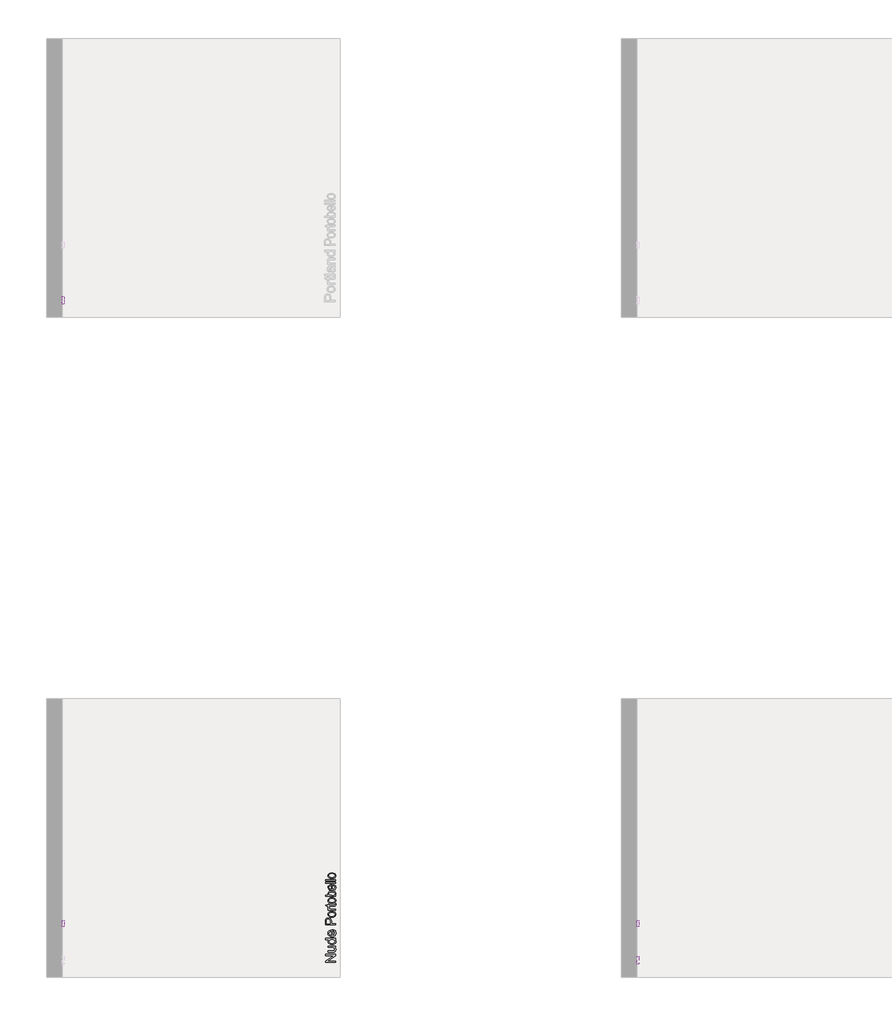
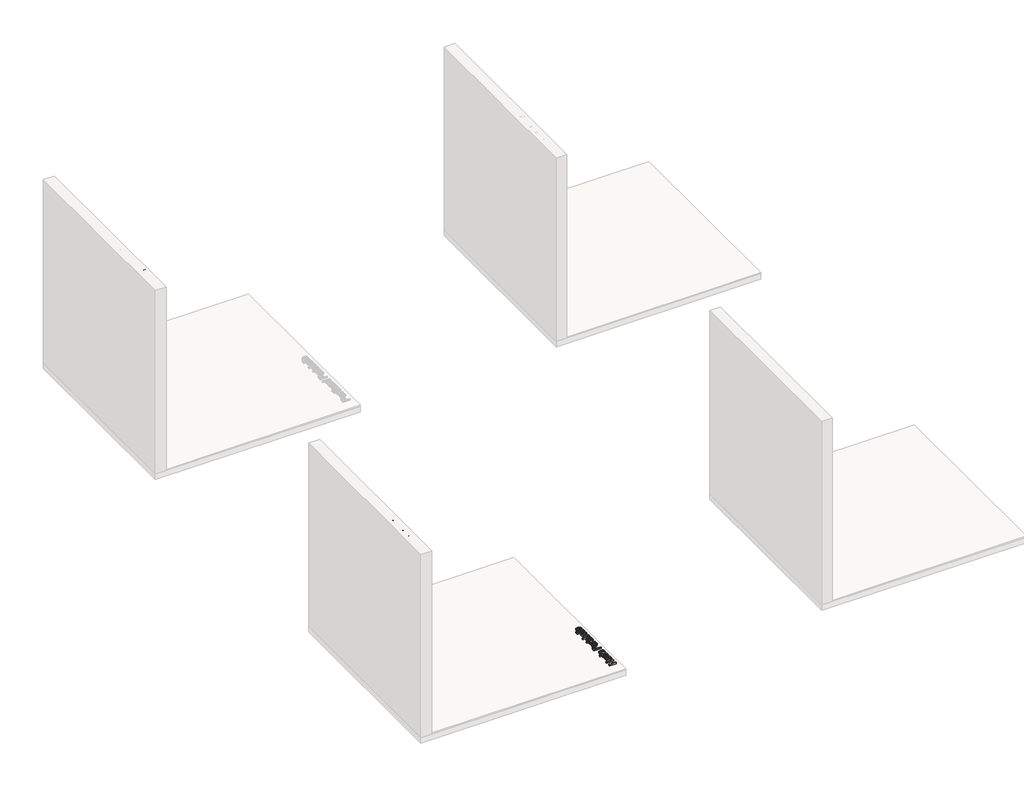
# One storey, part 8 of 14: 6 proxies.
"""IFC4 building model written with IfcOpenShell, lengths in millimetres."""

from ifc_helpers import new_model, si_unit, frame, origin, place, context, project, spatial, polyline, outline, extrude, element, save

model = new_model("IFC4")

# Units and contexts
model_context = context("Model", 3, world=origin())
ifc_project = project(units=[si_unit("LENGTHUNIT", "METRE", prefix="MILLI")], contexts=[model_context])

# Site, building, storey
site = spatial("IfcSite", under=ifc_project)
building = spatial("IfcBuilding", under=site)
storey = spatial("IfcBuildingStorey", under=building, Name="PORTOBELLO - SHOWROOM", Elevation=0.0)

# Proxies
placement = place(None, origin())
element("IfcBuildingElementProxy", 1, Name="10mm Arial", ObjectType="10mm Arial", at=placement, inside=storey, context=model_context, shape_type="SweptSolid", body=[
    extrude(outline(polyline([(186770.0643297, 3719.1344918), (186669.6080195, 3719.1344918), (186669.6080195, 3732.5744474), (186749.1931578, 3785.0589453), (186669.6080195, 3785.0589453), (186669.6080195, 3797.6159841), (186770.0643297, 3797.6159841), (186770.0643297, 3784.1760285), (186690.4546659, 3731.6915306), (186770.0643297, 3731.6915306), (186770.0643297, 3719.1344918)])), frame((0.0, 0.0, 17.0), z_axis=(0.0, 0.0, 1.0), x_axis=(1.0, 0.0, 0.0)), (0.0, 0.0, 1.0), 20.0),
    extrude(outline(polyline([(186770.0643297, 3865.1100675), (186757.3846636, 3865.1100675), (186768.0716355, 3855.2753555), (186771.6339595, 3842.4485366), (186769.132362, 3830.6395245), (186762.8538426, 3822.4970697), (186753.6077418, 3818.7569361), (186741.9336198, 3818.0211721), (186696.2917269, 3818.0211721), (186696.2917269, 3830.5782109), (186736.0229824, 3830.5782109), (186748.8252758, 3831.3385003), (186756.3423313, 3836.3049073), (186759.0769208, 3845.6613727), (186756.2810176, 3856.1460095), (186748.6658603, 3863.0744538), (186734.6740818, 3865.1100675), (186696.2917269, 3865.1100675), (186696.2917269, 3877.6671063), (186770.0643297, 3877.6671063), (186770.0643297, 3865.1100675)])), frame((0.0, 0.0, 17.0), z_axis=(0.0, 0.0, 1.0), x_axis=(1.0, 0.0, 0.0)), (0.0, 0.0, 1.0), 20.0),
    extrude(outline(polyline([(186770.0643297, 3940.4523001), (186758.2185294, 3940.4523001), (186768.280102, 3932.1442984), (186771.6339595, 3920.6602488), (186766.7779172, 3905.1111031), (186753.227597, 3894.1236942), (186733.2516047, 3890.224145), (186713.2633496, 3893.8171258), (186699.504563, 3904.5838056), (186694.7220971, 3920.6111978), (186698.1433996, 3932.1872179), (186707.0338812, 3940.4523001), (186669.6080195, 3940.4523001), (186669.6080195, 3953.0093389), (186770.0643297, 3953.0093389), (186770.0643297, 3940.4523001)]), holes=[polyline([(186733.2025538, 3902.7811838), (186744.5609104, 3904.1975295), (186752.6389859, 3908.4465665), (186757.467437, 3914.6208527), (186759.0769208, 3921.8129457), (186757.5410134, 3929.001973), (186752.9332914, 3935.0199093), (186745.1679157, 3939.0942024), (186734.159047, 3940.4523001), (186722.1231744, 3939.0696769), (186713.7783844, 3934.9218074), (186708.903948, 3928.750587), (186707.2791358, 3921.2979109), (186708.8395686, 3914.0322415), (186713.520867, 3908.0786845), (186721.5621543, 3904.105559), (186733.2025538, 3902.7811838)])]), frame((0.0, 0.0, 17.0), z_axis=(0.0, 0.0, 1.0), x_axis=(1.0, 0.0, 0.0)), (0.0, 0.0, 1.0), 20.0),
    extrude(outline(polyline([(186748.0895118, 4023.4955291), (186749.6591417, 4035.8073132), (186758.9358993, 4031.3712695), (186765.8704749, 4024.2926068), (186770.1930884, 4014.7307406), (186771.6339595, 4002.8450865), (186769.1476904, 3988.1114126), (186761.6888829, 3976.7745158), (186749.7419151, 3969.5456345), (186733.791165, 3967.1360075), (186717.3039202, 3969.57016), (186704.973742, 3976.8726176), (186697.2850083, 3988.0562303), (186694.7220971, 4002.133848), (186697.2788769, 4015.7730729), (186704.9492165, 4026.671577), (186717.2548693, 4033.8176848), (186733.7175886, 4036.1997207), (186737.1021029, 4036.1261443), (186737.1021029, 3979.6930462), (186746.5014879, 3981.8666157), (186753.411538, 3986.9157961), (186757.6605751, 3994.2029253), (186759.0769208, 4003.0903411), (186756.4526959, 4015.4021252), (186748.0895118, 4023.4955291)]), holes=[polyline([(186724.5450642, 3979.6930462), (186724.5450642, 4023.6426819), (186713.1652478, 4018.6149613), (186708.7506638, 4011.2941096), (186707.2791358, 4002.084797), (186711.9757627, 3986.6214905), (186717.4664014, 3981.7562511), (186724.5450642, 3979.6930462)])]), frame((0.0, 0.0, 17.0), z_axis=(0.0, 0.0, 1.0), x_axis=(1.0, 0.0, 0.0)), (0.0, 0.0, 1.0), 20.0),
])
element("IfcBuildingElementProxy", 2, Name="10mm Arial", ObjectType="10mm Arial", at=placement, inside=storey, context=model_context, shape_type="SweptSolid", body=[
    extrude(outline(polyline([(3702.0552811, 2558.2261649), (3702.0552811, 2658.6824751), (3715.4952367, 2658.6824751), (3767.9797347, 2579.0973368), (3767.9797347, 2658.6824751), (3780.5367734, 2658.6824751), (3780.5367734, 2558.2261649), (3767.0968179, 2558.2261649), (3714.6123199, 2637.8358287), (3714.6123199, 2558.2261649), (3702.0552811, 2558.2261649)])), frame((189692.8293498, 0.0, 0.0), z_axis=(1.0, 0.0, 0.0), x_axis=(0.0, 1.0, 0.0)), (0.0, 0.0, 1.0), 20.0),
    extrude(outline(polyline([(3848.0308568, 2558.2261649), (3848.0308568, 2570.905831), (3838.1961448, 2560.2188591), (3825.3693259, 2556.6565351), (3813.5603139, 2559.1581327), (3805.4178591, 2565.436652), (3801.6777254, 2574.6827529), (3800.9419614, 2586.3568748), (3800.9419614, 2631.9987677), (3813.4990002, 2631.9987677), (3813.4990002, 2592.2675122), (3814.2592897, 2579.4652188), (3819.2256966, 2571.9481634), (3828.582162, 2569.2135739), (3839.0667989, 2572.009477), (3845.9952431, 2579.6246343), (3848.0308568, 2593.6164129), (3848.0308568, 2631.9987677), (3860.5878956, 2631.9987677), (3860.5878956, 2558.2261649), (3848.0308568, 2558.2261649)])), frame((189692.8293498, 0.0, 0.0), z_axis=(1.0, 0.0, 0.0), x_axis=(0.0, 1.0, 0.0)), (0.0, 0.0, 1.0), 20.0),
    extrude(outline(polyline([(3923.3730894, 2558.2261649), (3923.3730894, 2570.0719652), (3915.0650877, 2560.0103926), (3903.5810381, 2556.6565351), (3888.0318924, 2561.5125774), (3877.0444835, 2575.0628976), (3873.1449344, 2595.0388899), (3876.7379152, 2615.027145), (3887.5045949, 2628.7859316), (3903.5319872, 2633.5683975), (3915.1080073, 2630.147095), (3923.3730894, 2621.2566134), (3923.3730894, 2658.6824751), (3935.9301282, 2658.6824751), (3935.9301282, 2558.2261649), (3923.3730894, 2558.2261649)]), holes=[polyline([(3885.7019731, 2595.0879409), (3887.1183188, 2583.7295843), (3891.3673559, 2575.6515088), (3897.541642, 2570.8230576), (3904.733735, 2569.2135739), (3911.9227623, 2570.7494812), (3917.9406986, 2575.3572032), (3922.0149917, 2583.122579), (3923.3730894, 2594.1314477), (3921.9904663, 2606.1673203), (3917.8425968, 2614.5121102), (3911.6713763, 2619.3865466), (3904.2187002, 2621.0113588), (3896.9530308, 2619.450926), (3890.9994739, 2614.7696276), (3887.0263483, 2606.7283403), (3885.7019731, 2595.0879409)])]), frame((189692.8293498, 0.0, 0.0), z_axis=(1.0, 0.0, 0.0), x_axis=(0.0, 1.0, 0.0)), (0.0, 0.0, 1.0), 20.0),
    extrude(outline(polyline([(4006.4163185, 2580.2009828), (4018.7281026, 2578.6313529), (4014.2920589, 2569.3545953), (4007.2133961, 2562.4200197), (3997.6515299, 2558.0974062), (3985.7658758, 2556.6565351), (3971.0322019, 2559.1428042), (3959.6953051, 2566.6016117), (3952.4664239, 2578.5485795), (3950.0567968, 2594.4993297), (3952.4909494, 2610.9865744), (3959.793407, 2623.3167526), (3970.9770196, 2631.0054863), (3985.0546373, 2633.5683975), (3998.6938623, 2631.0116177), (4009.5923664, 2623.3412781), (4016.7384741, 2611.0356253), (4019.1205101, 2594.5729061), (4019.0469337, 2591.1883917), (3962.6138356, 2591.1883917), (3964.787405, 2581.7890067), (3969.8365854, 2574.8789566), (3977.1237146, 2570.6299195), (3986.0111305, 2569.2135739), (3998.3229146, 2571.8377988), (4006.4163185, 2580.2009828)]), holes=[polyline([(3962.6138356, 2603.7454305), (4006.5634713, 2603.7454305), (4001.5357507, 2615.1252469), (3994.214899, 2619.5398308), (3985.0055864, 2621.0113588), (3969.5422798, 2616.314732), (3964.6770404, 2610.8240932), (3962.6138356, 2603.7454305)])]), frame((189692.8293498, 0.0, 0.0), z_axis=(1.0, 0.0, 0.0), x_axis=(0.0, 1.0, 0.0)), (0.0, 0.0, 1.0), 20.0),
])
element("IfcBuildingElementProxy", 3, Name="10mm Arial", ObjectType="10mm Arial", at=placement, inside=storey, context=model_context, shape_type="SweptSolid", body=[
    extrude(outline(polyline([(10102.0552811, 2558.2261649), (10102.0552811, 2658.6824751), (10139.2849391, 2658.6824751), (10154.2945245, 2657.7259819), (10166.495944, 2653.0293551), (10174.4054069, 2643.3172704), (10177.3975138, 2629.6197975), (10175.3772285, 2617.7801286), (10169.3163726, 2607.9147598), (10157.9825415, 2601.2560956), (10140.1433304, 2599.0365409), (10114.6123199, 2599.0365409), (10114.6123199, 2558.2261649), (10102.0552811, 2558.2261649)]), holes=[polyline([(10114.6123199, 2611.5935797), (10140.8790944, 2611.5935797), (10159.371296, 2616.2043674), (10163.4731802, 2621.7532541), (10164.840475, 2629.1783391), (10161.6153762, 2639.5771368), (10153.1418275, 2645.267045), (10140.5847888, 2646.1254363), (10114.6123199, 2646.1254363), (10114.6123199, 2611.5935797)])]), frame((184113.9473279, 0.0, 0.0), z_axis=(1.0, 0.0, 0.0), x_axis=(0.0, 1.0, 0.0)), (0.0, 0.0, 1.0), 20.0),
    extrude(outline(polyline([(10189.9545525, 2595.1124663), (10192.6707479, 2612.8995608), (10200.8193341, 2625.4014173), (10210.887038, 2631.5266525), (10222.9413048, 2633.5683975), (10236.13294, 2631.0821284), (10246.6696934, 2623.6233209), (10253.5766779, 2611.7805864), (10255.8790061, 2596.1425359), (10251.8077786, 2573.7998361), (10239.9497157, 2561.1569582), (10222.9413048, 2556.6565351), (10209.590254, 2559.1336072), (10199.0657633, 2566.5648235), (10192.2323552, 2578.6558784), (10189.9545525, 2595.1124663)]), holes=[polyline([(10202.5115913, 2595.1369918), (10203.9647252, 2583.7725038), (10208.3241268, 2575.6760342), (10214.8846891, 2570.829189), (10222.9413048, 2569.2135739), (10230.9611323, 2570.838386), (10237.5094318, 2575.7128224), (10241.8688334, 2583.9165909), (10243.3219673, 2595.5293992), (10241.8596364, 2606.5627934), (10237.4726436, 2614.5488984), (10230.915147, 2619.3957437), (10222.9413048, 2621.0113588), (10214.8846891, 2619.4018751), (10208.3241268, 2614.5734239), (10203.9647252, 2606.4953484), (10202.5115913, 2595.1369918)])]), frame((184113.9473279, 0.0, 0.0), z_axis=(1.0, 0.0, 0.0), x_axis=(0.0, 1.0, 0.0)), (0.0, 0.0, 1.0), 20.0),
    extrude(outline(polyline([(10270.0056747, 2558.2261649), (10270.0056747, 2631.9987677), (10280.9930836, 2631.9987677), (10280.9930836, 2621.0849352), (10288.7921819, 2631.1403764), (10296.6403311, 2633.5683975), (10309.2464208, 2629.6933739), (10305.0525661, 2618.4361848), (10296.2233982, 2621.0113588), (10289.1232757, 2618.5342867), (10284.5983271, 2611.6671561), (10282.5627134, 2597.0009272), (10282.5627134, 2558.2261649), (10270.0056747, 2558.2261649)])), frame((184113.9473279, 0.0, 0.0), z_axis=(1.0, 0.0, 0.0), x_axis=(0.0, 1.0, 0.0)), (0.0, 0.0, 1.0), 20.0),
    extrude(outline(polyline([(10343.7782774, 2568.6985391), (10345.3479073, 2557.8582829), (10335.9546537, 2556.6565351), (10325.4332286, 2558.7411997), (10320.1847788, 2564.2103787), (10318.6641999, 2578.4596747), (10318.6641999, 2619.4417289), (10309.2464208, 2619.4417289), (10309.2464208, 2629.6933739), (10309.2464208, 2631.9987677), (10318.6641999, 2631.9987677), (10318.6641999, 2649.9268836), (10331.2212387, 2657.309049), (10331.2212387, 2631.9987677), (10343.7782774, 2631.9987677), (10343.7782774, 2619.4417289), (10331.2212387, 2619.4417289), (10331.2212387, 2578.8275567), (10331.8834263, 2572.3528336), (10334.0294046, 2570.0597024), (10338.3090984, 2569.2135739), (10343.7782774, 2568.6985391)])), frame((184113.9473279, 0.0, 0.0), z_axis=(1.0, 0.0, 0.0), x_axis=(0.0, 1.0, 0.0)), (0.0, 0.0, 1.0), 20.0),
    extrude(outline(polyline([(184133.9473279, 10368.892355), (184133.9473279, 10356.3353162), (184113.9473279, 10356.3353162), (184113.9473279, 10368.892355), (184133.9473279, 10368.892355)])), frame((0.0, 0.0, 2558.2261649), z_axis=(0.0, 0.0, 1.0), x_axis=(1.0, 0.0, 0.0)), (0.0, 0.0, 1.0), 100.4563101),
    extrude(outline(polyline([(10434.8168085, 2567.643944), (10422.6399145, 2559.1336072), (10409.1876962, 2556.6565351), (10398.6938623, 2558.1464572), (10390.953012, 2562.6162234), (10386.1797431, 2569.4036462), (10384.5886534, 2577.846538), (10386.9921491, 2587.7793519), (10393.3074567, 2594.989839), (10402.0998364, 2599.1101173), (10412.964618, 2600.9985782), (10434.7432321, 2605.3150603), (10434.8168085, 2608.1109635), (10431.3587178, 2617.3815898), (10417.4773038, 2621.0113588), (10404.7731122, 2618.5956003), (10398.7153221, 2610.0239499), (10386.1582833, 2611.5935797), (10391.5906741, 2623.8563129), (10402.5290321, 2631.0422745), (10419.0959846, 2633.5683975), (10434.3140365, 2631.3365801), (10442.9102124, 2625.7325111), (10446.7607106, 2617.2099115), (10447.3738473, 2606.2225026), (10447.3738473, 2590.5997805), (10448.0115094, 2568.7843782), (10450.513107, 2558.2261649), (10437.9560682, 2558.2261649), (10434.8168085, 2567.643944)]), holes=[polyline([(10434.8168085, 2592.7580215), (10414.5587733, 2588.9075233), (10403.7553054, 2586.8719096), (10398.8624749, 2583.5609717), (10397.1456922, 2578.7294548), (10400.8858258, 2571.9359006), (10411.860972, 2569.2135739), (10424.5651636, 2572.2179435), (10432.7566693, 2579.4897443), (10434.7432321, 2589.2018289), (10434.8168085, 2592.7580215)])]), frame((184113.9473279, 0.0, 0.0), z_axis=(1.0, 0.0, 0.0), x_axis=(0.0, 1.0, 0.0)), (0.0, 0.0, 1.0), 20.0),
    extrude(outline(polyline([(10464.6397756, 2558.2261649), (10464.6397756, 2631.9987677), (10477.1968144, 2631.9987677), (10477.1968144, 2621.6980718), (10486.7985344, 2630.6008161), (10499.9073962, 2633.5683975), (10511.7654592, 2631.1771646), (10519.8588631, 2624.8986452), (10523.6235221, 2615.6648071), (10524.2857097, 2603.5247013), (10524.2857097, 2558.2261649), (10511.728671, 2558.2261649), (10511.728671, 2601.8324441), (10510.2816685, 2612.9424804), (10505.1681087, 2618.8163295), (10496.5474073, 2621.0113588), (10482.9235107, 2616.08174), (10478.6284885, 2608.938698), (10477.1968144, 2597.3688092), (10477.1968144, 2558.2261649), (10464.6397756, 2558.2261649)])), frame((184113.9473279, 0.0, 0.0), z_axis=(1.0, 0.0, 0.0), x_axis=(0.0, 1.0, 0.0)), (0.0, 0.0, 1.0), 20.0),
    extrude(outline(polyline([(10587.0709036, 2558.2261649), (10587.0709036, 2570.0719652), (10578.7629019, 2560.0103926), (10567.2788522, 2556.6565351), (10551.7297066, 2561.5125774), (10540.7422977, 2575.0628976), (10536.8427485, 2595.0388899), (10540.4357293, 2615.027145), (10551.2024091, 2628.7859316), (10567.2298013, 2633.5683975), (10578.8058214, 2630.147095), (10587.0709036, 2621.2566134), (10587.0709036, 2658.6824751), (10599.6279424, 2658.6824751), (10599.6279424, 2558.2261649), (10587.0709036, 2558.2261649)]), holes=[polyline([(10549.3997873, 2595.0879409), (10550.816133, 2583.7295843), (10555.06517, 2575.6515088), (10561.2394562, 2570.8230576), (10568.4315492, 2569.2135739), (10575.6205765, 2570.7494812), (10581.6385128, 2575.3572032), (10585.7128059, 2583.122579), (10587.0709036, 2594.1314477), (10585.6882804, 2606.1673203), (10581.5404109, 2614.5121102), (10575.3691905, 2619.3865466), (10567.9165144, 2621.0113588), (10560.650845, 2619.450926), (10554.697288, 2614.7696276), (10550.7241625, 2606.7283403), (10549.3997873, 2595.0879409)])]), frame((184113.9473279, 0.0, 0.0), z_axis=(1.0, 0.0, 0.0), x_axis=(0.0, 1.0, 0.0)), (0.0, 0.0, 1.0), 20.0),
])
element("IfcBuildingElementProxy", 4, Name="10mm Arial Narrow", ObjectType="10mm Arial Narrow", at=placement, inside=storey, context=model_context, shape_type="SweptSolid", body=[
    extrude(outline(polyline([(186770.0643297, 4086.4483914), (186669.3457259, 4086.4483914), (186669.3457259, 4117.7452761), (186671.2240467, 4134.0409776), (186680.7044898, 4145.5139637), (186697.7235987, 4149.8036422), (186709.7994242, 4148.0173338), (186719.425818, 4142.6584086), (186725.7270764, 4132.9146198), (186727.8274959, 4117.9737205), (186727.8274959, 4096.1953531), (186770.0643297, 4096.1953531), (186770.0643297, 4086.4483914)]), holes=[polyline([(186716.4560406, 4096.1953531), (186716.4560406, 4119.166708), (186711.9252264, 4135.0309034), (186698.2566356, 4140.0566805), (186688.0908592, 4137.581866), (186682.2909094, 4131.6042372), (186680.7171812, 4118.9382636), (186680.7171812, 4096.1953531), (186716.4560406, 4096.1953531)])]), frame((0.0, 0.0, 17.0), z_axis=(0.0, 0.0, 1.0), x_axis=(1.0, 0.0, 0.0)), (0.0, 0.0, 1.0), 20.0),
    extrude(outline(polyline([(186733.5132235, 4157.9261102), (186716.9224479, 4159.8805791), (186704.9703631, 4165.7439857), (186697.7458085, 4174.6025524), (186695.3376237, 4185.5425016), (186697.7458085, 4196.3555372), (186704.9703631, 4205.2394866), (186716.7320776, 4211.1790413), (186732.7517421, 4213.1588929), (186749.9136287, 4211.2139426), (186762.0560839, 4205.3790915), (186769.2806384, 4196.5300433), (186771.6888233, 4185.5425016), (186769.2742928, 4174.6818734), (186762.0307011, 4165.8074425), (186750.0722706, 4159.8964433), (186733.5132235, 4157.9261102)]), holes=[polyline([(186733.4878408, 4167.6730719), (186746.0395922, 4168.9771087), (186754.9108502, 4172.8892193), (186760.1841088, 4178.7304161), (186761.9418616, 4185.8217114), (186760.1682446, 4192.5417846), (186754.8473935, 4198.2338579), (186745.9602712, 4202.1174129), (186733.4878408, 4203.4119313), (186720.9741634, 4202.1078944), (186712.1155967, 4198.1957838), (186706.8423382, 4192.3545871), (186705.0845853, 4185.2632917), (186706.8518567, 4178.495626), (186712.1536708, 4172.8130712), (186721.021756, 4168.9580717), (186733.4878408, 4167.6730719)])]), frame((0.0, 0.0, 17.0), z_axis=(0.0, 0.0, 1.0), x_axis=(1.0, 0.0, 0.0)), (0.0, 0.0, 1.0), 20.0),
    extrude(outline(polyline([(186761.9418616, 4284.6366117), (186771.6888233, 4286.2611053), (186771.6888233, 4278.9001187), (186769.5693668, 4270.6253543), (186763.769417, 4266.3102932), (186749.1235918, 4265.1426884), (186706.7090789, 4265.1426884), (186706.7090789, 4257.0202204), (186703.4600917, 4257.0202204), (186708.3335726, 4255.3957268), (186706.7090789, 4247.8316784), (186709.0315971, 4241.7525187), (186715.5168802, 4237.881655), (186730.9241868, 4235.9018034), (186770.0643297, 4235.9018034), (186770.0643297, 4226.1548418), (186696.9621173, 4226.1548418), (186696.9621173, 4235.9018034), (186706.6583135, 4235.9018034), (186697.5713024, 4242.1459508), (186695.3376237, 4248.5423943), (186696.9621173, 4257.0202204), (186696.9621173, 4265.1426884), (186680.7171812, 4265.1426884), (186672.5947132, 4274.8896501), (186696.9621173, 4274.8896501), (186696.9621173, 4284.6366117), (186706.7090789, 4284.6366117), (186706.7090789, 4274.8896501), (186751.3572705, 4274.8896501), (186759.352825, 4275.7526623), (186761.9418616, 4280.372316), (186761.9418616, 4284.6366117)])), frame((0.0, 0.0, 17.0), z_axis=(0.0, 0.0, 1.0), x_axis=(1.0, 0.0, 0.0)), (0.0, 0.0, 1.0), 20.0),
    extrude(outline(polyline([(186733.5132235, 4291.1345861), (186716.9224479, 4293.089055), (186704.9703631, 4298.9524616), (186697.7458085, 4307.8110284), (186695.3376237, 4318.7509775), (186697.7458085, 4329.5640131), (186704.9703631, 4338.4479625), (186716.7320776, 4344.3875173), (186732.7517421, 4346.3673689), (186749.9136287, 4344.4224185), (186762.0560839, 4338.5875674), (186769.2806384, 4329.7385192), (186771.6888233, 4318.7509775), (186769.2742928, 4307.8903493), (186762.0307011, 4299.0159184), (186750.0722706, 4293.1049192), (186733.5132235, 4291.1345861)]), holes=[polyline([(186733.4878408, 4300.8815478), (186746.0395922, 4302.1855847), (186754.9108502, 4306.0976953), (186760.1841088, 4311.938892), (186761.9418616, 4319.0301873), (186760.1682446, 4325.7502605), (186754.8473935, 4331.4423338), (186745.9602712, 4335.3258889), (186733.4878408, 4336.6204072), (186720.9741634, 4335.3163703), (186712.1155967, 4331.4042598), (186706.8423382, 4325.563063), (186705.0845853, 4318.4717677), (186706.8518567, 4311.7041019), (186712.1536708, 4306.0215471), (186721.021756, 4302.1665476), (186733.4878408, 4300.8815478)])]), frame((0.0, 0.0, 17.0), z_axis=(0.0, 0.0, 1.0), x_axis=(1.0, 0.0, 0.0)), (0.0, 0.0, 1.0), 20.0),
    extrude(outline(polyline([(186770.0643297, 4369.1102794), (186770.0643297, 4359.3633177), (186669.3457259, 4359.3633177), (186669.3457259, 4369.1102794), (186704.7546101, 4369.1102794), (186697.6728332, 4376.5093401), (186695.3376237, 4385.7105734), (186699.5384626, 4398.5923001), (186712.267893, 4407.8696816), (186732.9548038, 4411.3471132), (186749.4091473, 4409.4148542), (186761.6118864, 4403.6180772), (186769.1695891, 4395.2449549), (186771.6888233, 4385.5836599), (186769.0744039, 4376.2428216), (186761.3072938, 4369.1102794), (186770.0643297, 4369.1102794)]), holes=[polyline([(186732.9548038, 4369.1102794), (186750.202357, 4371.1916618), (186758.9340102, 4377.0804511), (186761.9418616, 4385.5328945), (186760.1523804, 4391.4756221), (186754.7839367, 4396.7139794), (186733.3609272, 4401.6001516), (186711.9252264, 4396.8916584), (186706.7947456, 4391.6469554), (186705.0845853, 4385.3298328), (186706.8740666, 4379.3522039), (186712.2425103, 4374.0599083), (186732.9548038, 4369.1102794)])]), frame((0.0, 0.0, 17.0), z_axis=(0.0, 0.0, 1.0), x_axis=(1.0, 0.0, 0.0)), (0.0, 0.0, 1.0), 20.0),
    extrude(outline(polyline([(186747.3214192, 4463.3309087), (186748.9459128, 4473.0778703), (186758.8324793, 4469.37834), (186765.9523302, 4463.5593531), (186770.2547, 4455.8556998), (186771.6888233, 4446.5021702), (186769.2742928, 4434.9086162), (186762.0307011, 4425.764494), (186750.2245669, 4419.8249392), (186734.1224086, 4417.8450876), (186717.4554849, 4419.8344577), (186705.2749557, 4425.8025681), (186697.8219567, 4434.8166039), (186695.3376237, 4445.9437505), (186697.73629, 4456.6266997), (186704.9322891, 4465.3742171), (186716.6717937, 4471.2090681), (186732.7009767, 4473.1540185), (186735.9499639, 4473.0778703), (186735.9499639, 4427.5920493), (186755.3931218, 4433.5950608), (186760.3046767, 4439.5250971), (186761.9418616, 4446.6290838), (186758.286751, 4456.8075515), (186747.3214192, 4463.3309087)]), holes=[polyline([(186726.2030022, 4428.2519998), (186726.2030022, 4463.3309087), (186711.9379177, 4459.066613), (186706.7979184, 4453.2412804), (186705.0845853, 4446.0198987), (186710.7956957, 4433.8108139), (186726.2030022, 4428.2519998)])]), frame((0.0, 0.0, 17.0), z_axis=(0.0, 0.0, 1.0), x_axis=(1.0, 0.0, 0.0)), (0.0, 0.0, 1.0), 20.0),
    extrude(outline(polyline([(186770.0643297, 4486.0738192), (186669.3457259, 4486.0738192), (186669.3457259, 4495.8207809), (186770.0643297, 4495.8207809), (186770.0643297, 4486.0738192)])), frame((0.0, 0.0, 17.0), z_axis=(0.0, 0.0, 1.0), x_axis=(1.0, 0.0, 0.0)), (0.0, 0.0, 1.0), 20.0),
    extrude(outline(polyline([(186770.0643297, 4512.065717), (186669.3457259, 4512.065717), (186669.3457259, 4521.8126786), (186770.0643297, 4521.8126786), (186770.0643297, 4512.065717)])), frame((0.0, 0.0, 17.0), z_axis=(0.0, 0.0, 1.0), x_axis=(1.0, 0.0, 0.0)), (0.0, 0.0, 1.0), 20.0),
    extrude(outline(polyline([(186733.5132235, 4533.1841339), (186716.9224479, 4535.1386028), (186704.9703631, 4541.0020094), (186697.7458085, 4549.8605761), (186695.3376237, 4560.8005252), (186697.7458085, 4571.6135608), (186704.9703631, 4580.4975102), (186716.7320776, 4586.437065), (186732.7517421, 4588.4169166), (186749.9136287, 4586.4719662), (186762.0560839, 4580.6371152), (186769.2806384, 4571.788067), (186771.6888233, 4560.8005252), (186769.2742928, 4549.9398971), (186762.0307011, 4541.0654662), (186750.0722706, 4535.1544669), (186733.5132235, 4533.1841339)]), holes=[polyline([(186733.4878408, 4542.9310955), (186746.0395922, 4544.2351324), (186754.9108502, 4548.147243), (186760.1841088, 4553.9884397), (186761.9418616, 4561.0797351), (186760.1682446, 4567.7998082), (186754.8473935, 4573.4918815), (186745.9602712, 4577.3754366), (186733.4878408, 4578.6699549), (186720.9741634, 4577.3659181), (186712.1155967, 4573.4538075), (186706.8423382, 4567.6126107), (186705.0845853, 4560.5213154), (186706.8518567, 4553.7536496), (186712.1536708, 4548.0710948), (186721.021756, 4544.2160954), (186733.4878408, 4542.9310955)])]), frame((0.0, 0.0, 17.0), z_axis=(0.0, 0.0, 1.0), x_axis=(1.0, 0.0, 0.0)), (0.0, 0.0, 1.0), 20.0),
])
element("IfcBuildingElementProxy", 5, Name="10mm Arial Narrow", ObjectType="10mm Arial Narrow", at=placement, inside=storey, context=model_context, shape_type="SweptSolid", body=[
    extrude(outline(polyline([(4064.1903403, 2558.2261649), (4064.1903403, 2658.9447687), (4095.4872249, 2658.9447687), (4111.7829265, 2657.066448), (4123.2559126, 2647.5860048), (4127.545591, 2630.566896), (4125.7592826, 2618.4910704), (4120.4003574, 2608.8646767), (4110.6565686, 2602.5634182), (4095.7156694, 2600.4629988), (4073.9373019, 2600.4629988), (4073.9373019, 2558.2261649), (4064.1903403, 2558.2261649)]), holes=[polyline([(4073.9373019, 2611.834454), (4096.9086569, 2611.834454), (4112.7728523, 2616.3652682), (4117.7986294, 2630.033859), (4115.3238149, 2640.1996354), (4109.346186, 2645.9995852), (4096.6802124, 2647.5733134), (4073.9373019, 2647.5733134), (4073.9373019, 2611.834454)])]), frame((189692.8293498, 0.0, 0.0), z_axis=(1.0, 0.0, 0.0), x_axis=(0.0, 1.0, 0.0)), (0.0, 0.0, 1.0), 20.0),
    extrude(outline(polyline([(4135.6680591, 2594.7772711), (4137.6225279, 2611.3680467), (4143.4859345, 2623.3201315), (4152.3445013, 2630.5446861), (4163.2844504, 2632.9528709), (4174.097486, 2630.5446861), (4182.9814354, 2623.3201315), (4188.9209902, 2611.558417), (4190.9008418, 2595.5387525), (4188.9558914, 2578.3768659), (4183.1210403, 2566.2344108), (4174.2719921, 2559.0098562), (4163.2844504, 2556.6016713), (4152.4238222, 2559.0162019), (4143.5493913, 2566.2597935), (4137.6383921, 2578.218224), (4135.6680591, 2594.7772711)]), holes=[polyline([(4145.4150207, 2594.8026538), (4146.7190576, 2582.2509024), (4150.6311682, 2573.3796444), (4156.4723649, 2568.1063858), (4163.5636602, 2566.348633), (4170.2837334, 2568.12225), (4175.9758067, 2573.4431012), (4179.8593618, 2582.3302234), (4181.1538801, 2594.8026538), (4179.8498432, 2607.3163312), (4175.9377327, 2616.1748979), (4170.0965359, 2621.4481564), (4163.0052406, 2623.2059093), (4156.2375748, 2621.4386379), (4150.55502, 2616.1368238), (4146.7000205, 2607.2687386), (4145.4150207, 2594.8026538)])]), frame((189692.8293498, 0.0, 0.0), z_axis=(1.0, 0.0, 0.0), x_axis=(0.0, 1.0, 0.0)), (0.0, 0.0, 1.0), 20.0),
    extrude(outline(polyline([(4262.3785606, 2566.348633), (4264.0030542, 2556.6016713), (4256.6420675, 2556.6016713), (4248.3673032, 2558.7211278), (4244.052242, 2564.5210777), (4242.8846372, 2579.1669029), (4242.8846372, 2621.5814157), (4234.7621692, 2621.5814157), (4234.7621692, 2624.8304029), (4233.1376756, 2619.9569221), (4225.5736272, 2621.5814157), (4219.4944675, 2619.2588975), (4215.6236039, 2612.7736144), (4213.6437523, 2597.3663078), (4213.6437523, 2558.2261649), (4203.8967906, 2558.2261649), (4203.8967906, 2631.3283773), (4213.6437523, 2631.3283773), (4213.6437523, 2621.6321811), (4219.8878996, 2630.7191922), (4226.2843432, 2632.9528709), (4234.7621692, 2631.3283773), (4242.8846372, 2631.3283773), (4242.8846372, 2647.5733134), (4252.6315989, 2655.6957815), (4252.6315989, 2631.3283773), (4262.3785606, 2631.3283773), (4262.3785606, 2621.5814157), (4252.6315989, 2621.5814157), (4252.6315989, 2576.9332242), (4253.4946111, 2568.9376697), (4258.1142648, 2566.348633), (4262.3785606, 2566.348633)])), frame((189692.8293498, 0.0, 0.0), z_axis=(1.0, 0.0, 0.0), x_axis=(0.0, 1.0, 0.0)), (0.0, 0.0, 1.0), 20.0),
    extrude(outline(polyline([(4268.876535, 2594.7772711), (4270.8310039, 2611.3680467), (4276.6944105, 2623.3201315), (4285.5529772, 2630.5446861), (4296.4929263, 2632.9528709), (4307.3059619, 2630.5446861), (4316.1899113, 2623.3201315), (4322.1294661, 2611.558417), (4324.1093177, 2595.5387525), (4322.1643673, 2578.3768659), (4316.3295163, 2566.2344108), (4307.4804681, 2559.0098562), (4296.4929263, 2556.6016713), (4285.6322982, 2559.0162019), (4276.7578673, 2566.2597935), (4270.8468681, 2578.218224), (4268.876535, 2594.7772711)]), holes=[polyline([(4278.6234966, 2594.8026538), (4279.9275335, 2582.2509024), (4283.8396441, 2573.3796444), (4289.6808408, 2568.1063858), (4296.7721362, 2566.348633), (4303.4922093, 2568.12225), (4309.1842827, 2573.4431012), (4313.0678377, 2582.3302234), (4314.362356, 2594.8026538), (4313.0583192, 2607.3163312), (4309.1462086, 2616.1748979), (4303.3050118, 2621.4481564), (4296.2137165, 2623.2059093), (4289.4460507, 2621.4386379), (4283.7634959, 2616.1368238), (4279.9084965, 2607.2687386), (4278.6234966, 2594.8026538)])]), frame((189692.8293498, 0.0, 0.0), z_axis=(1.0, 0.0, 0.0), x_axis=(0.0, 1.0, 0.0)), (0.0, 0.0, 1.0), 20.0),
    extrude(outline(polyline([(4346.8522282, 2558.2261649), (4337.1052666, 2558.2261649), (4337.1052666, 2658.9447687), (4346.8522282, 2658.9447687), (4346.8522282, 2623.5358846), (4354.2512889, 2630.6176614), (4363.4525223, 2632.9528709), (4376.3342489, 2628.752032), (4385.6116304, 2616.0226016), (4389.089062, 2595.3356908), (4387.156803, 2578.8813473), (4381.360026, 2566.6786082), (4372.9869037, 2559.1209056), (4363.3256087, 2556.6016713), (4353.9847705, 2559.2160907), (4346.8522282, 2566.9832008), (4346.8522282, 2558.2261649)]), holes=[polyline([(4346.8522282, 2595.3356908), (4348.9336107, 2578.0881376), (4354.8224, 2569.3564844), (4363.2748433, 2566.348633), (4369.2175709, 2568.1381142), (4374.4559282, 2573.5065579), (4379.3421004, 2594.9295674), (4374.6336072, 2616.3652682), (4369.3889042, 2621.495749), (4363.0717816, 2623.2059093), (4357.0941528, 2621.4164281), (4351.8018572, 2616.0479843), (4346.8522282, 2595.3356908)])]), frame((189692.8293498, 0.0, 0.0), z_axis=(1.0, 0.0, 0.0), x_axis=(0.0, 1.0, 0.0)), (0.0, 0.0, 1.0), 20.0),
    extrude(outline(polyline([(4441.0728575, 2580.9690755), (4450.8198192, 2579.3445819), (4447.1202888, 2569.4580153), (4441.3013019, 2562.3381644), (4433.5976487, 2558.0357946), (4424.2441191, 2556.6016713), (4412.6505651, 2559.0162019), (4403.5064428, 2566.2597935), (4397.5668881, 2578.0659277), (4395.5870365, 2594.168086), (4397.5764066, 2610.8350097), (4403.5445169, 2623.0155389), (4412.5585527, 2630.4685379), (4423.6856994, 2632.9528709), (4434.3686486, 2630.5542046), (4443.1161659, 2623.3582056), (4448.951017, 2611.618701), (4450.8959673, 2595.5895179), (4450.8198192, 2592.3405307), (4405.3339981, 2592.3405307), (4411.3370097, 2572.8973728), (4417.2670459, 2567.9858179), (4424.3710326, 2566.348633), (4434.5495004, 2570.0037436), (4441.0728575, 2580.9690755)]), holes=[polyline([(4405.9939487, 2602.0874924), (4441.0728575, 2602.0874924), (4436.8085618, 2616.3525769), (4430.9832293, 2621.4925762), (4423.7618475, 2623.2059093), (4411.5527627, 2617.4947989), (4405.9939487, 2602.0874924)])]), frame((189692.8293498, 0.0, 0.0), z_axis=(1.0, 0.0, 0.0), x_axis=(0.0, 1.0, 0.0)), (0.0, 0.0, 1.0), 20.0),
    extrude(outline(polyline([(189712.8293498, 4473.5627297), (189712.8293498, 4463.8157681), (189692.8293498, 4463.8157681), (189692.8293498, 4473.5627297), (189712.8293498, 4473.5627297)])), frame((0.0, 0.0, 2558.2261649), z_axis=(0.0, 0.0, 1.0), x_axis=(1.0, 0.0, 0.0)), (0.0, 0.0, 1.0), 100.7186038),
    extrude(outline(polyline([(189712.8293498, 4499.5546275), (189712.8293498, 4489.8076658), (189692.8293498, 4489.8076658), (189692.8293498, 4499.5546275), (189712.8293498, 4499.5546275)])), frame((0.0, 0.0, 2558.2261649), z_axis=(0.0, 0.0, 1.0), x_axis=(1.0, 0.0, 0.0)), (0.0, 0.0, 1.0), 100.7186038),
    extrude(outline(polyline([(4510.9260827, 2594.7772711), (4512.8805516, 2611.3680467), (4518.7439582, 2623.3201315), (4527.6025249, 2630.5446861), (4538.5424741, 2632.9528709), (4549.3555097, 2630.5446861), (4558.2394591, 2623.3201315), (4564.1790138, 2611.558417), (4566.1588654, 2595.5387525), (4564.2139151, 2578.3768659), (4558.379064, 2566.2344108), (4549.5300158, 2559.0098562), (4538.5424741, 2556.6016713), (4527.6818459, 2559.0162019), (4518.807415, 2566.2597935), (4512.8964158, 2578.218224), (4510.9260827, 2594.7772711)]), holes=[polyline([(4520.6730444, 2594.8026538), (4521.9770812, 2582.2509024), (4525.8891918, 2573.3796444), (4531.7303886, 2568.1063858), (4538.8216839, 2566.348633), (4545.5417571, 2568.12225), (4551.2338304, 2573.4431012), (4555.1173854, 2582.3302234), (4556.4119038, 2594.8026538), (4555.1078669, 2607.3163312), (4551.1957563, 2616.1748979), (4545.3545596, 2621.4481564), (4538.2632642, 2623.2059093), (4531.4955985, 2621.4386379), (4525.8130437, 2616.1368238), (4521.9580442, 2607.2687386), (4520.6730444, 2594.8026538)])]), frame((189692.8293498, 0.0, 0.0), z_axis=(1.0, 0.0, 0.0), x_axis=(0.0, 1.0, 0.0)), (0.0, 0.0, 1.0), 20.0),
])
element("IfcBuildingElementProxy", 6, Name="10mm Arial Narrow", ObjectType="10mm Arial Narrow", at=placement, inside=storey, context=model_context, shape_type="SweptSolid", body=[
    extrude(outline(polyline([(4064.1903403, 2558.2261649), (4064.1903403, 2658.9447687), (4095.4872249, 2658.9447687), (4111.7829265, 2657.066448), (4123.2559126, 2647.5860048), (4127.545591, 2630.566896), (4125.7592826, 2618.4910704), (4120.4003574, 2608.8646767), (4110.6565686, 2602.5634182), (4095.7156694, 2600.4629988), (4073.9373019, 2600.4629988), (4073.9373019, 2558.2261649), (4064.1903403, 2558.2261649)]), holes=[polyline([(4073.9373019, 2611.834454), (4096.9086569, 2611.834454), (4112.7728523, 2616.3652682), (4117.7986294, 2630.033859), (4115.3238149, 2640.1996354), (4109.346186, 2645.9995852), (4096.6802124, 2647.5733134), (4073.9373019, 2647.5733134), (4073.9373019, 2611.834454)])]), frame((184113.9473279, 0.0, 0.0), z_axis=(1.0, 0.0, 0.0), x_axis=(0.0, 1.0, 0.0)), (0.0, 0.0, 1.0), 20.0),
    extrude(outline(polyline([(4135.6680591, 2594.7772711), (4137.6225279, 2611.3680467), (4143.4859345, 2623.3201315), (4152.3445013, 2630.5446861), (4163.2844504, 2632.9528709), (4174.097486, 2630.5446861), (4182.9814354, 2623.3201315), (4188.9209902, 2611.558417), (4190.9008418, 2595.5387525), (4188.9558914, 2578.3768659), (4183.1210403, 2566.2344108), (4174.2719921, 2559.0098562), (4163.2844504, 2556.6016713), (4152.4238222, 2559.0162019), (4143.5493913, 2566.2597935), (4137.6383921, 2578.218224), (4135.6680591, 2594.7772711)]), holes=[polyline([(4145.4150207, 2594.8026538), (4146.7190576, 2582.2509024), (4150.6311682, 2573.3796444), (4156.4723649, 2568.1063858), (4163.5636602, 2566.348633), (4170.2837334, 2568.12225), (4175.9758067, 2573.4431012), (4179.8593618, 2582.3302234), (4181.1538801, 2594.8026538), (4179.8498432, 2607.3163312), (4175.9377327, 2616.1748979), (4170.0965359, 2621.4481564), (4163.0052406, 2623.2059093), (4156.2375748, 2621.4386379), (4150.55502, 2616.1368238), (4146.7000205, 2607.2687386), (4145.4150207, 2594.8026538)])]), frame((184113.9473279, 0.0, 0.0), z_axis=(1.0, 0.0, 0.0), x_axis=(0.0, 1.0, 0.0)), (0.0, 0.0, 1.0), 20.0),
    extrude(outline(polyline([(4262.3785606, 2566.348633), (4264.0030542, 2556.6016713), (4256.6420675, 2556.6016713), (4248.3673032, 2558.7211278), (4244.052242, 2564.5210777), (4242.8846372, 2579.1669029), (4242.8846372, 2621.5814157), (4234.7621692, 2621.5814157), (4234.7621692, 2624.8304029), (4233.1376756, 2619.9569221), (4225.5736272, 2621.5814157), (4219.4944675, 2619.2588975), (4215.6236039, 2612.7736144), (4213.6437523, 2597.3663078), (4213.6437523, 2558.2261649), (4203.8967906, 2558.2261649), (4203.8967906, 2631.3283773), (4213.6437523, 2631.3283773), (4213.6437523, 2621.6321811), (4219.8878996, 2630.7191922), (4226.2843432, 2632.9528709), (4234.7621692, 2631.3283773), (4242.8846372, 2631.3283773), (4242.8846372, 2647.5733134), (4252.6315989, 2655.6957815), (4252.6315989, 2631.3283773), (4262.3785606, 2631.3283773), (4262.3785606, 2621.5814157), (4252.6315989, 2621.5814157), (4252.6315989, 2576.9332242), (4253.4946111, 2568.9376697), (4258.1142648, 2566.348633), (4262.3785606, 2566.348633)])), frame((184113.9473279, 0.0, 0.0), z_axis=(1.0, 0.0, 0.0), x_axis=(0.0, 1.0, 0.0)), (0.0, 0.0, 1.0), 20.0),
    extrude(outline(polyline([(4268.876535, 2594.7772711), (4270.8310039, 2611.3680467), (4276.6944105, 2623.3201315), (4285.5529772, 2630.5446861), (4296.4929263, 2632.9528709), (4307.3059619, 2630.5446861), (4316.1899113, 2623.3201315), (4322.1294661, 2611.558417), (4324.1093177, 2595.5387525), (4322.1643673, 2578.3768659), (4316.3295163, 2566.2344108), (4307.4804681, 2559.0098562), (4296.4929263, 2556.6016713), (4285.6322982, 2559.0162019), (4276.7578673, 2566.2597935), (4270.8468681, 2578.218224), (4268.876535, 2594.7772711)]), holes=[polyline([(4278.6234966, 2594.8026538), (4279.9275335, 2582.2509024), (4283.8396441, 2573.3796444), (4289.6808408, 2568.1063858), (4296.7721362, 2566.348633), (4303.4922093, 2568.12225), (4309.1842827, 2573.4431012), (4313.0678377, 2582.3302234), (4314.362356, 2594.8026538), (4313.0583192, 2607.3163312), (4309.1462086, 2616.1748979), (4303.3050118, 2621.4481564), (4296.2137165, 2623.2059093), (4289.4460507, 2621.4386379), (4283.7634959, 2616.1368238), (4279.9084965, 2607.2687386), (4278.6234966, 2594.8026538)])]), frame((184113.9473279, 0.0, 0.0), z_axis=(1.0, 0.0, 0.0), x_axis=(0.0, 1.0, 0.0)), (0.0, 0.0, 1.0), 20.0),
    extrude(outline(polyline([(4346.8522282, 2558.2261649), (4337.1052666, 2558.2261649), (4337.1052666, 2658.9447687), (4346.8522282, 2658.9447687), (4346.8522282, 2623.5358846), (4354.2512889, 2630.6176614), (4363.4525223, 2632.9528709), (4376.3342489, 2628.752032), (4385.6116304, 2616.0226016), (4389.089062, 2595.3356908), (4387.156803, 2578.8813473), (4381.360026, 2566.6786082), (4372.9869037, 2559.1209056), (4363.3256087, 2556.6016713), (4353.9847705, 2559.2160907), (4346.8522282, 2566.9832008), (4346.8522282, 2558.2261649)]), holes=[polyline([(4346.8522282, 2595.3356908), (4348.9336107, 2578.0881376), (4354.8224, 2569.3564844), (4363.2748433, 2566.348633), (4369.2175709, 2568.1381142), (4374.4559282, 2573.5065579), (4379.3421004, 2594.9295674), (4374.6336072, 2616.3652682), (4369.3889042, 2621.495749), (4363.0717816, 2623.2059093), (4357.0941528, 2621.4164281), (4351.8018572, 2616.0479843), (4346.8522282, 2595.3356908)])]), frame((184113.9473279, 0.0, 0.0), z_axis=(1.0, 0.0, 0.0), x_axis=(0.0, 1.0, 0.0)), (0.0, 0.0, 1.0), 20.0),
    extrude(outline(polyline([(4441.0728575, 2580.9690755), (4450.8198192, 2579.3445819), (4447.1202888, 2569.4580153), (4441.3013019, 2562.3381644), (4433.5976487, 2558.0357946), (4424.2441191, 2556.6016713), (4412.6505651, 2559.0162019), (4403.5064428, 2566.2597935), (4397.5668881, 2578.0659277), (4395.5870365, 2594.168086), (4397.5764066, 2610.8350097), (4403.5445169, 2623.0155389), (4412.5585527, 2630.4685379), (4423.6856994, 2632.9528709), (4434.3686486, 2630.5542046), (4443.1161659, 2623.3582056), (4448.951017, 2611.618701), (4450.8959673, 2595.5895179), (4450.8198192, 2592.3405307), (4405.3339981, 2592.3405307), (4411.3370097, 2572.8973728), (4417.2670459, 2567.9858179), (4424.3710326, 2566.348633), (4434.5495004, 2570.0037436), (4441.0728575, 2580.9690755)]), holes=[polyline([(4405.9939487, 2602.0874924), (4441.0728575, 2602.0874924), (4436.8085618, 2616.3525769), (4430.9832293, 2621.4925762), (4423.7618475, 2623.2059093), (4411.5527627, 2617.4947989), (4405.9939487, 2602.0874924)])]), frame((184113.9473279, 0.0, 0.0), z_axis=(1.0, 0.0, 0.0), x_axis=(0.0, 1.0, 0.0)), (0.0, 0.0, 1.0), 20.0),
    extrude(outline(polyline([(184133.9473279, 4473.5627297), (184133.9473279, 4463.8157681), (184113.9473279, 4463.8157681), (184113.9473279, 4473.5627297), (184133.9473279, 4473.5627297)])), frame((0.0, 0.0, 2558.2261649), z_axis=(0.0, 0.0, 1.0), x_axis=(1.0, 0.0, 0.0)), (0.0, 0.0, 1.0), 100.7186038),
    extrude(outline(polyline([(184133.9473279, 4499.5546275), (184133.9473279, 4489.8076658), (184113.9473279, 4489.8076658), (184113.9473279, 4499.5546275), (184133.9473279, 4499.5546275)])), frame((0.0, 0.0, 2558.2261649), z_axis=(0.0, 0.0, 1.0), x_axis=(1.0, 0.0, 0.0)), (0.0, 0.0, 1.0), 100.7186038),
    extrude(outline(polyline([(4510.9260827, 2594.7772711), (4512.8805516, 2611.3680467), (4518.7439582, 2623.3201315), (4527.6025249, 2630.5446861), (4538.5424741, 2632.9528709), (4549.3555097, 2630.5446861), (4558.2394591, 2623.3201315), (4564.1790138, 2611.558417), (4566.1588654, 2595.5387525), (4564.2139151, 2578.3768659), (4558.379064, 2566.2344108), (4549.5300158, 2559.0098562), (4538.5424741, 2556.6016713), (4527.6818459, 2559.0162019), (4518.807415, 2566.2597935), (4512.8964158, 2578.218224), (4510.9260827, 2594.7772711)]), holes=[polyline([(4520.6730444, 2594.8026538), (4521.9770812, 2582.2509024), (4525.8891918, 2573.3796444), (4531.7303886, 2568.1063858), (4538.8216839, 2566.348633), (4545.5417571, 2568.12225), (4551.2338304, 2573.4431012), (4555.1173854, 2582.3302234), (4556.4119038, 2594.8026538), (4555.1078669, 2607.3163312), (4551.1957563, 2616.1748979), (4545.3545596, 2621.4481564), (4538.2632642, 2623.2059093), (4531.4955985, 2621.4386379), (4525.8130437, 2616.1368238), (4521.9580442, 2607.2687386), (4520.6730444, 2594.8026538)])]), frame((184113.9473279, 0.0, 0.0), z_axis=(1.0, 0.0, 0.0), x_axis=(0.0, 1.0, 0.0)), (0.0, 0.0, 1.0), 20.0),
])

save(model, "model.ifc")
